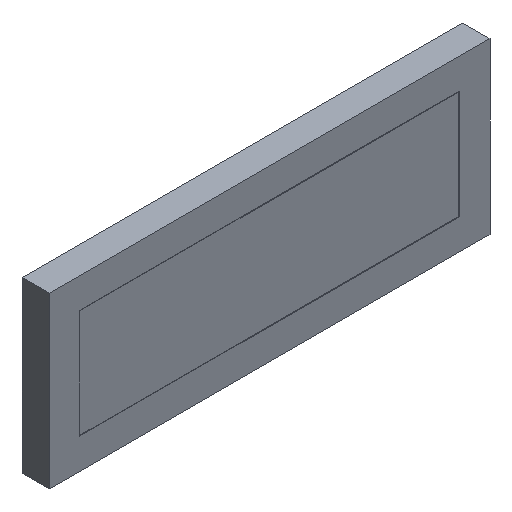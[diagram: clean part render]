
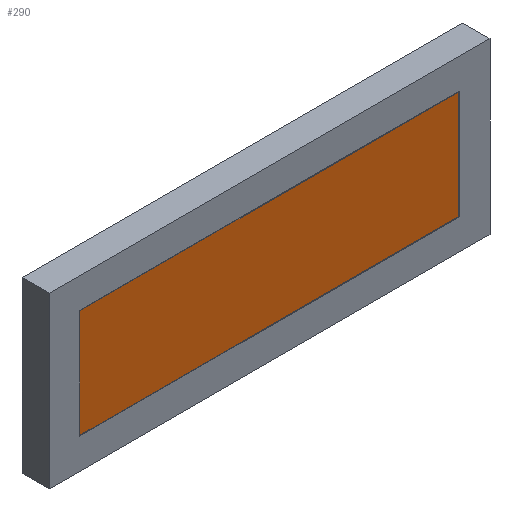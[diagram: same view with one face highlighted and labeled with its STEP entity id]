
A CAD part, isometric view. The second image highlights one B-rep face of the part: STEP entity #290.
In plain terms, the highlighted planar face has unit normal (0, -1, 0).
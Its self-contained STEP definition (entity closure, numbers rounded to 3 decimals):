
#81=DIRECTION('',(0.,0.,1.));
#82=VECTOR('',#81,8.);
#83=CARTESIAN_POINT('',(14.,64.55,-4.));
#84=LINE('',#83,#82);
#85=DIRECTION('',(1.,0.,0.));
#86=VECTOR('',#85,28.);
#87=CARTESIAN_POINT('',(-14.,64.55,-4.));
#88=LINE('',#87,#86);
#89=DIRECTION('',(0.,0.,-1.));
#90=VECTOR('',#89,8.);
#91=CARTESIAN_POINT('',(-14.,64.55,4.));
#92=LINE('',#91,#90);
#93=DIRECTION('',(-1.,0.,0.));
#94=VECTOR('',#93,28.);
#95=CARTESIAN_POINT('',(14.,64.55,4.));
#96=LINE('',#95,#94);
#113=CARTESIAN_POINT('',(14.,64.55,-4.));
#114=CARTESIAN_POINT('',(14.,64.55,4.));
#115=VERTEX_POINT('',#113);
#116=VERTEX_POINT('',#114);
#117=CARTESIAN_POINT('',(-14.,64.55,4.));
#118=VERTEX_POINT('',#117);
#119=CARTESIAN_POINT('',(-14.,64.55,-4.));
#120=VERTEX_POINT('',#119);
#279=CARTESIAN_POINT('',(0.,64.55,0.));
#280=DIRECTION('',(0.,-1.,0.));
#281=DIRECTION('',(0.,0.,-1.));
#282=AXIS2_PLACEMENT_3D('',#279,#280,#281);
#283=PLANE('',#282);
#284=ORIENTED_EDGE('',*,*,#231,.F.);
#285=ORIENTED_EDGE('',*,*,#246,.F.);
#286=ORIENTED_EDGE('',*,*,#260,.F.);
#287=ORIENTED_EDGE('',*,*,#273,.F.);
#288=EDGE_LOOP('',(#284,#285,#286,#287));
#289=FACE_OUTER_BOUND('',#288,.F.);
#290=ADVANCED_FACE('',(#289),#283,.T.);
#231=EDGE_CURVE('',#115,#116,#84,.T.);
#246=EDGE_CURVE('',#120,#115,#88,.T.);
#260=EDGE_CURVE('',#118,#120,#92,.T.);
#273=EDGE_CURVE('',#116,#118,#96,.T.);
